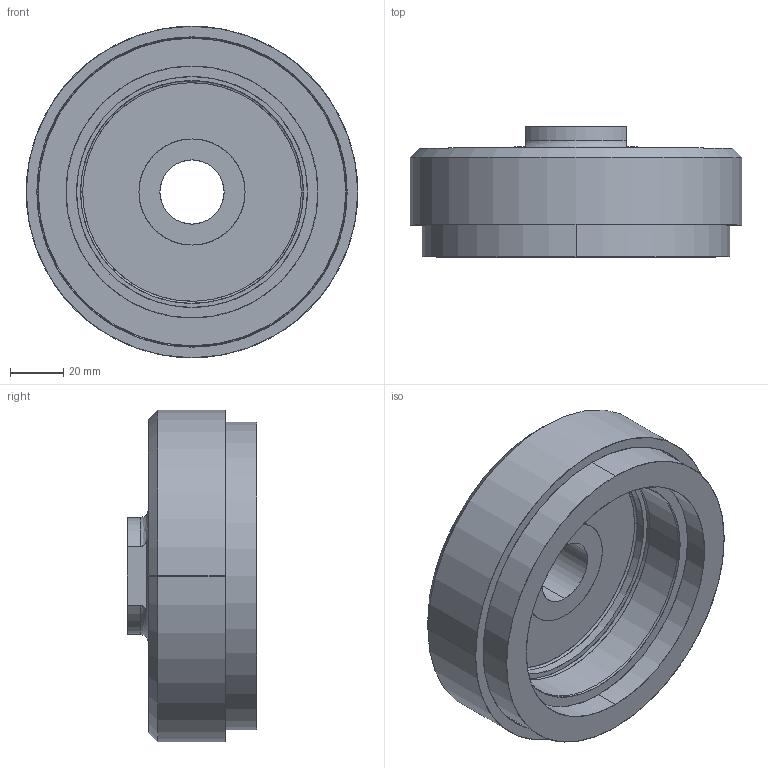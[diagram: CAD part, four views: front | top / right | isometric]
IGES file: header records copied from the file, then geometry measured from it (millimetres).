
Start section: SolidWorks IGES file using analytic representation for surfaces
Global section: file name: R:\RITNINGAR\Belker\Suck_Cups_CI\IGES\Assy_CI115_Sil.IGS; native system: SolidWorks 2009; preprocessor: SolidWorks 2009; author: Ozzy; date: 090826.140106; units: millimetre
Bounding box: 125 x 49 x 125 mm (x, y, z)
Surface area: 91625.6 mm2 (no closed solid volume)
Topology: 0 solids, 0 shells, 49 faces, 1534 edges, 1534 vertices
Faces by surface type: revolution 26, bspline 23
